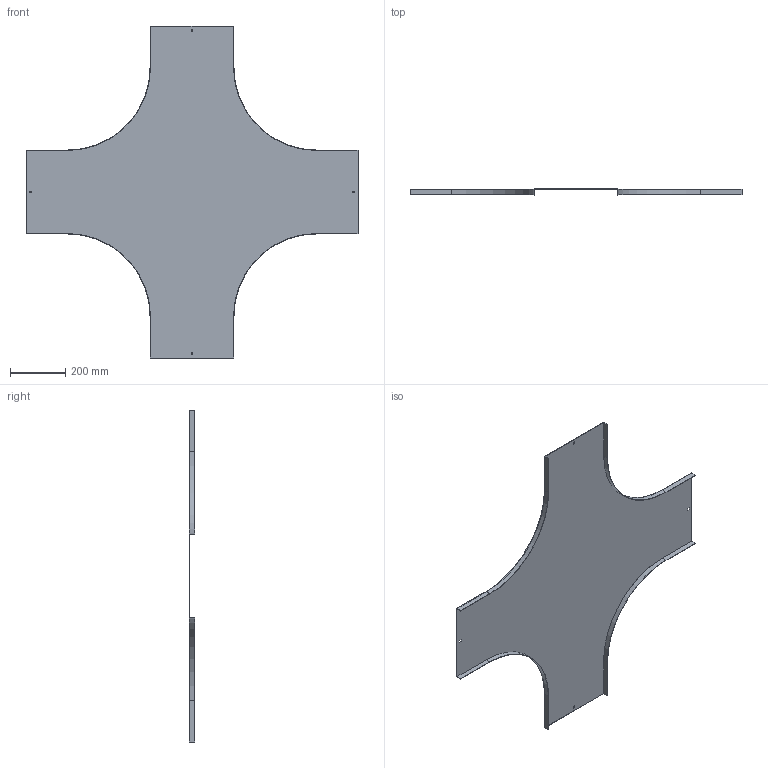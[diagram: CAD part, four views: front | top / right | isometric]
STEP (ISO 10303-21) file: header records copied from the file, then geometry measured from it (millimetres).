
FILE_DESCRIPTION (( 'STEP AP214' ), '1' );
FILE_NAME ('A2_17N3R300.step', '2025-02-21T12:08:09', ( '' ), ( '' ), 'SwSTEP 2.0', 'SolidWorks 2023', '' );
FILE_SCHEMA (( 'AUTOMOTIVE_DESIGN' ));
Length unit declared in the file: millimetre
Products named in the file (1): A2_17N3R300
Bounding box: 1200 x 20 x 1200 mm (x, y, z)
Volume: 1152941.3 mm3; surface area: 1544094.3 mm2
Topology: 1 solids, 1 shells, 50 faces, 144 edges, 96 vertices
Faces by surface type: plane 42, cylinder 8
Entity records: 1663 total; most frequent: CARTESIAN_POINT 291, ORIENTED_EDGE 288, DIRECTION 262, EDGE_CURVE 144, LINE 128, VECTOR 128, VERTEX_POINT 96, AXIS2_PLACEMENT_3D 67
